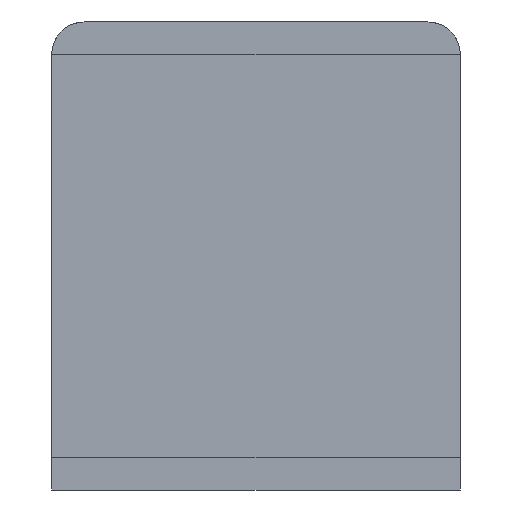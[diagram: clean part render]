
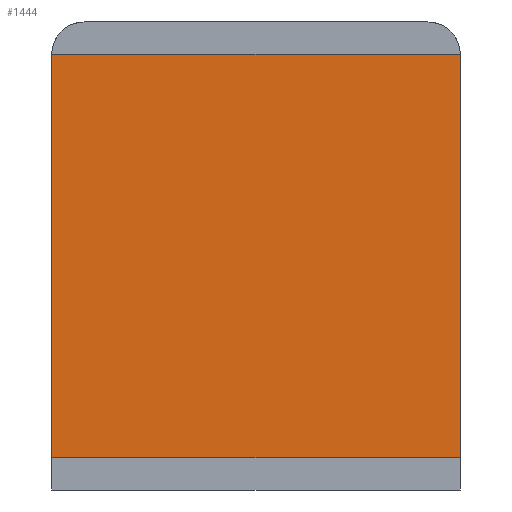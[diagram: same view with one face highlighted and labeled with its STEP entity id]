
A CAD part, front view. The second image highlights one B-rep face of the part: STEP entity #1444.
In plain terms, the highlighted planar face has unit normal (0, -1, 0).
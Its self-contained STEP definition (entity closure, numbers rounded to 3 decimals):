
#21 = CARTESIAN_POINT ( 'NONE',  ( 0., 0., -275. ) ) ;
#51 = CARTESIAN_POINT ( 'NONE',  ( 0., 0., -19. ) ) ;
#178 = EDGE_CURVE ( 'NONE', #990, #964, #2125, .T. ) ;
#301 = AXIS2_PLACEMENT_3D ( 'NONE', #21, #992, #785 ) ;
#371 = EDGE_LOOP ( 'NONE', ( #955, #1394, #721, #1942 ) ) ;
#557 = EDGE_CURVE ( 'NONE', #990, #1003, #2282, .T. ) ;
#570 = CARTESIAN_POINT ( 'NONE',  ( 0., 0., -275. ) ) ;
#601 = CARTESIAN_POINT ( 'NONE',  ( 0., 0., -256. ) ) ;
#663 = CARTESIAN_POINT ( 'NONE',  ( 240., 0., -19. ) ) ;
#721 = ORIENTED_EDGE ( 'NONE', *, *, #178, .F. ) ;
#743 = DIRECTION ( 'NONE',  ( 0., 0., 1. ) ) ;
#767 = DIRECTION ( 'NONE',  ( -1., 0., 0. ) ) ;
#769 = LINE ( 'NONE', #51, #2387 ) ;
#785 = DIRECTION ( 'NONE',  ( 0., 0., -1. ) ) ;
#955 = ORIENTED_EDGE ( 'NONE', *, *, #2060, .F. ) ;
#964 = VERTEX_POINT ( 'NONE', #2176 ) ;
#990 = VERTEX_POINT ( 'NONE', #2011 ) ;
#992 = DIRECTION ( 'NONE',  ( 0., -1., 0. ) ) ;
#1003 = VERTEX_POINT ( 'NONE', #663 ) ;
#1311 = EDGE_CURVE ( 'NONE', #964, #1396, #2299, .T. ) ;
#1342 = DIRECTION ( 'NONE',  ( 0., 0., 1. ) ) ;
#1381 = VECTOR ( 'NONE', #743, 1000. ) ;
#1394 = ORIENTED_EDGE ( 'NONE', *, *, #1311, .F. ) ;
#1396 = VERTEX_POINT ( 'NONE', #2120 ) ;
#1444 = ADVANCED_FACE ( 'NONE', ( #1945 ), #1749, .T. ) ;
#1505 = VECTOR ( 'NONE', #1342, 1000. ) ;
#1749 = PLANE ( 'NONE',  #301 ) ;
#1942 = ORIENTED_EDGE ( 'NONE', *, *, #557, .T. ) ;
#1945 = FACE_OUTER_BOUND ( 'NONE', #371, .T. ) ;
#2011 = CARTESIAN_POINT ( 'NONE',  ( 240., 0., -256. ) ) ;
#2060 = EDGE_CURVE ( 'NONE', #1396, #1003, #769, .T. ) ;
#2086 = CARTESIAN_POINT ( 'NONE',  ( 240., 0., -275. ) ) ;
#2120 = CARTESIAN_POINT ( 'NONE',  ( 0., 0., -19. ) ) ;
#2125 = LINE ( 'NONE', #601, #2235 ) ;
#2176 = CARTESIAN_POINT ( 'NONE',  ( 0., 0., -256. ) ) ;
#2235 = VECTOR ( 'NONE', #767, 1000. ) ;
#2282 = LINE ( 'NONE', #2086, #1381 ) ;
#2299 = LINE ( 'NONE', #570, #1505 ) ;
#2331 = DIRECTION ( 'NONE',  ( 1., 0., 0. ) ) ;
#2387 = VECTOR ( 'NONE', #2331, 1000. ) ;
